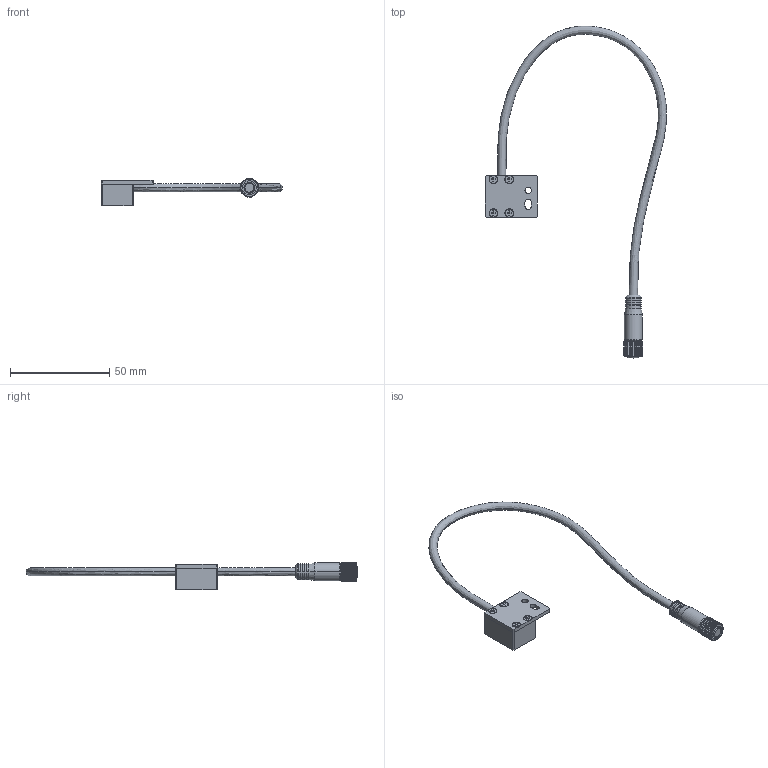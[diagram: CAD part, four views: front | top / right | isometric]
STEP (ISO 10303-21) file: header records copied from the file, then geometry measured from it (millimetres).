
FILE_DESCRIPTION (( 'STEP AP214' ), '1' );
FILE_NAME ('THINLED 1 LED.STEP', '2012-08-13T11:54:46', ( ' ' ), ( '' ), 'SwSTEP 2.0', 'SolidWorks 2009', '' );
FILE_SCHEMA (( 'AUTOMOTIVE_DESIGN' ));
Length unit declared in the file: millimetre
Products named in the file (1): THINLED 1 LED
Bounding box: 91.25 x 167.31 x 13.74 mm (x, y, z)
Volume: 9309.4 mm3; surface area: 8707 mm2
Topology: 9 solids, 9 shells, 349 faces, 916 edges, 592 vertices
Faces by surface type: cylinder 176, plane 115, cone 42, bspline 12, torus 4
Entity records: 18911 total; most frequent: CARTESIAN_POINT 6763, ORIENTED_EDGE 1816, DIRECTION 1618, EDGE_CURVE 908, VERTEX_POINT 592, AXIS2_PLACEMENT_3D 578, VECTOR 462, LINE 462
